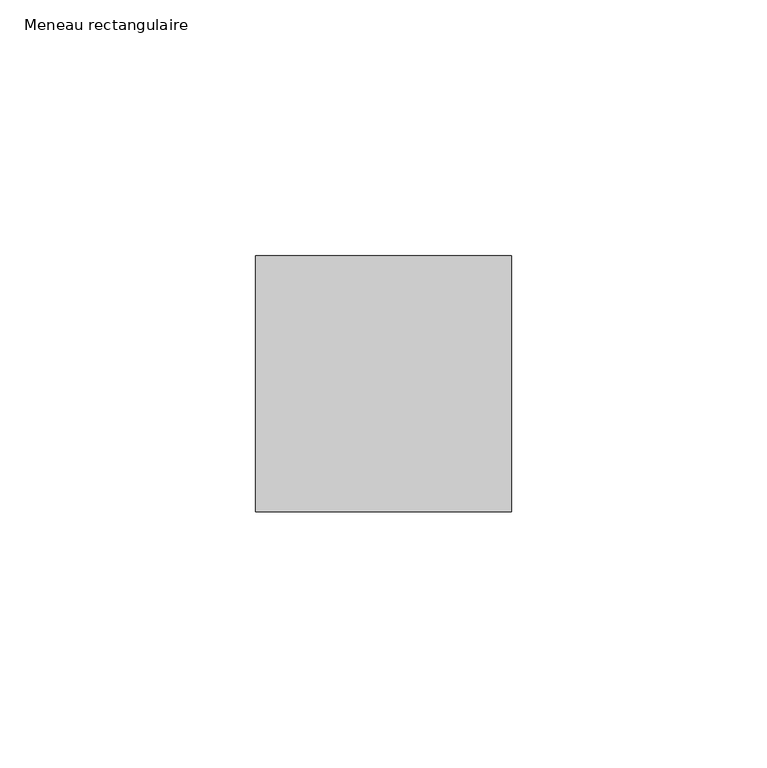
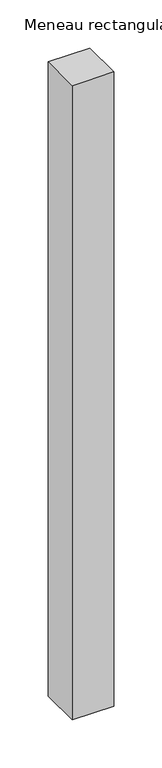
"""IFC4 building model written with IfcOpenShell, lengths in millimetres: member geometry, Meneau rectangulaire : 5x5cm aluminium laqué gris foncé."""

from ifc_helpers import new_model, si_unit, frame, origin, place, context, project, spatial, polyline, outline, extrude, source, transform, mapped, element, save


def meneau_rectangulaire_a7af7ef5(model_context):
    return source(origin(), model_context, "Body", "SweptSolid", [
        extrude(outline(polyline([(25.0, 25.0), (25.0, -25.0), (-25.0, -25.0), (-25.0, 25.0), (25.0, 25.0)])), frame((0.0, 0.0, -804.8302654), z_axis=(0.0, 0.0, 1.0), x_axis=(1.0, 0.0, 0.0)), (0.0, 0.0, 1.0), 804.8302654),
    ])


if __name__ == "__main__":
    model = new_model("IFC4")
    model_context = context("Model", 3, world=origin())
    ifc_project = project(units=[si_unit("LENGTHUNIT", "METRE", prefix="MILLI")], contexts=[model_context])
    site = spatial("IfcSite", under=ifc_project)
    building = spatial("IfcBuilding", under=site)
    placement = place(None, origin())
    meneau_rectangulaire_shape = meneau_rectangulaire_a7af7ef5(model_context)
    element("IfcMember", 1, ObjectType="Meneau rectangulaire : 5x5cm aluminium laqué gris foncé", at=placement, inside=building, context=model_context, shape_type="MappedRepresentation", body=[
        mapped(meneau_rectangulaire_shape, transform((0.0, 0.0, 0.0), x_axis=(1.0, 0.0, 0.0), y_axis=(0.0, 1.0, 0.0), z_axis=(0.0, 0.0, 1.0))),
    ])
    save(model, "model.ifc")
